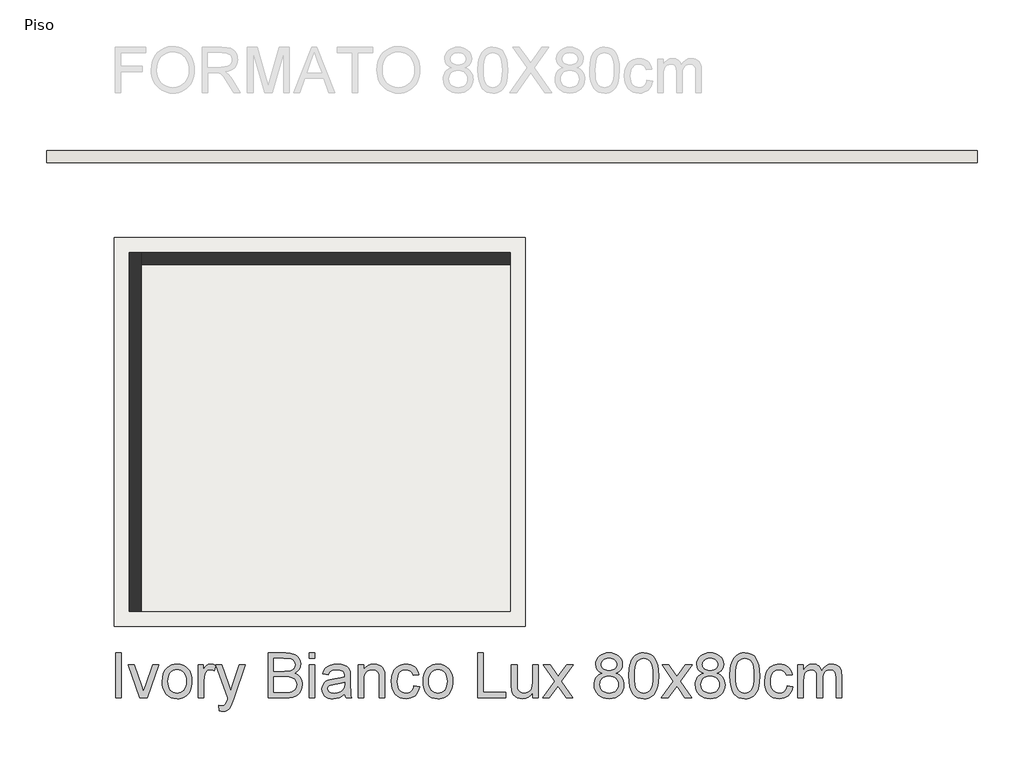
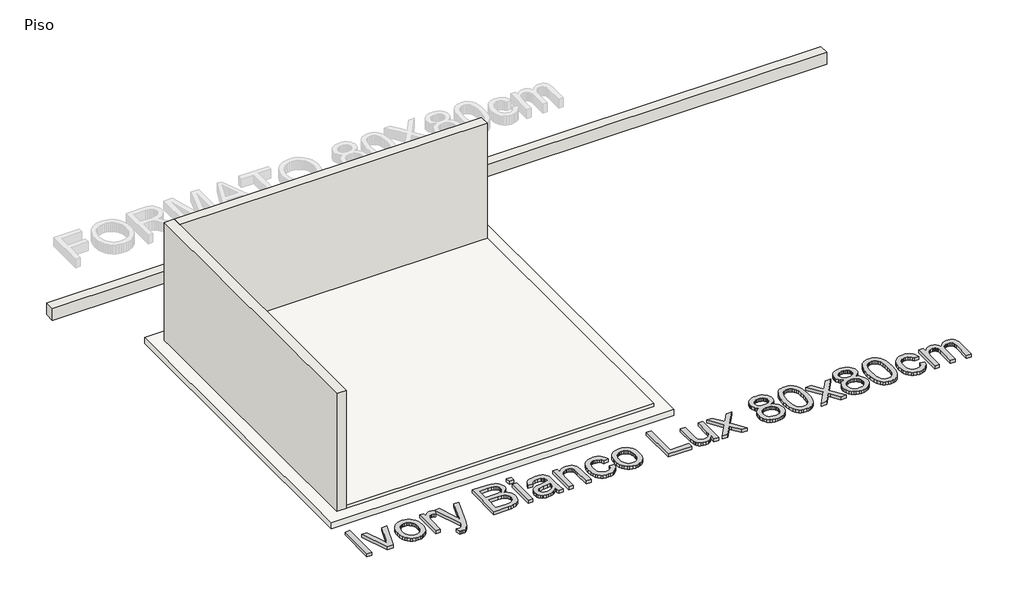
# One storey, part 1 of 2: 3 walls, 2 slabs, 1 proxy.
"""IFC4 building model written with IfcOpenShell, lengths in millimetres."""

from ifc_helpers import new_model, si_unit, frame, origin, origin_with_axes, place, context, project, spatial, polyline, outline, extrude, faceted_brep, element, save

model = new_model("IFC4")

# Units and contexts
model_context = context("Model", 3, world=origin())
ifc_project = project(units=[si_unit("LENGTHUNIT", "METRE", prefix="MILLI")], contexts=[model_context])

# Site, building, storey
site = spatial("IfcSite", under=ifc_project)
building = spatial("IfcBuilding", under=site)
storey = spatial("IfcBuildingStorey", under=building, Name="Piso", Elevation=0.0)

# Proxy
placement = place(None, origin())
element("IfcBuildingElementProxy", 1, Name="600mm Arial", ObjectType="600mm Arial", at=placement, inside=storey, context=model_context, shape_type="SweptSolid", body=[
    extrude(outline(polyline([(92605.8267172, -5369.1849345), (92605.8267172, -4766.4470736), (92681.1689498, -4766.4470736), (92681.1689498, -5369.1849345), (92605.8267172, -5369.1849345)])), origin_with_axes(), (0.0, 0.0, 1.0), 50.0),
    extrude(outline(polyline([(92931.0344009, -5369.1849345), (92775.3467405, -4926.5493179), (92855.1035571, -4926.5493179), (92949.4285007, -5191.71866), (92977.8289907, -5280.8932556), (93005.6408695, -5196.7218551), (93100.5544243, -4926.5493179), (93180.3112408, -4926.5493179), (93026.5365668, -5369.1849345), (92931.0344009, -5369.1849345)])), origin_with_axes(), (0.0, 0.0, 1.0), 50.0),
    extrude(outline(polyline([(93227.4001362, -5147.8671262), (93231.4744293, -5090.5419143), (93243.6973086, -5041.1445594), (93264.0687741, -4999.6750615), (93292.5888258, -4966.1334206), (93321.3020155, -4944.6950973), (93352.9950494, -4929.3820092), (93387.6679274, -4920.1941564), (93425.3206496, -4917.1315388), (93466.8867165, -4920.8609425), (93504.4704609, -4932.0491537), (93538.0718826, -4950.6961723), (93567.6909817, -4976.8019984), (93591.8654274, -5009.4837152), (93609.1328885, -5047.8584058), (93619.4933652, -5091.9260703), (93622.9468574, -5141.6867087), (93621.4201471, -5182.0157724), (93616.8400163, -5217.8014935), (93609.2064649, -5249.0438719), (93598.5194929, -5275.7429077), (93584.9124576, -5298.8045103), (93568.5187162, -5319.134589), (93549.3382687, -5336.733144), (93527.3711151, -5351.6001751), (93503.472581, -5363.4137857), (93478.497992, -5371.8520789), (93452.4473482, -5376.9150549), (93425.3206496, -5378.6027136), (93383.1475774, -5374.8871054), (93345.2143452, -5363.7402809), (93311.5209529, -5345.1622402), (93282.0674007, -5319.1529831), (93258.1504725, -5286.1539682), (93241.0669523, -5246.6066537), (93230.8168402, -5200.5110397), (93227.4001362, -5147.8671262)]), holes=[polyline([(93302.7423688, -5147.7199734), (93304.9220696, -5184.2644511), (93311.4611721, -5215.9069012), (93322.3596762, -5242.6473237), (93337.617582, -5264.4857186), (93356.1772286, -5281.4496771), (93376.9809554, -5293.5667904), (93400.0287624, -5300.8370583), (93425.3206496, -5303.2604809), (93450.4837781, -5300.8232627), (93473.4396146, -5293.5116081), (93494.1881591, -5281.325517), (93512.7294117, -5264.2649895), (93527.9873174, -5242.2104638), (93538.8858215, -5215.0423785), (93545.424924, -5182.7607334), (93547.6046248, -5145.3655286), (93545.4111284, -5109.9798792), (93538.8306392, -5079.1651636), (93527.8631572, -5052.9213817), (93512.5086825, -5031.2485337), (93493.898452, -5014.2845752), (93473.1637031, -5002.167462), (93450.3044356, -4994.8971941), (93425.3206496, -4992.4737714), (93400.0287624, -4994.887997), (93376.9809554, -5002.1306738), (93356.1772286, -5014.2018018), (93337.617582, -5031.1013809), (93322.3596762, -5052.8753965), (93311.4611721, -5079.5698338), (93304.9220696, -5111.1846927), (93302.7423688, -5147.7199734)])]), origin_with_axes(), (0.0, 0.0, 1.0), 50.0),
    extrude(outline(polyline([(93707.7068691, -5369.1849345), (93707.7068691, -4926.5493179), (93773.6313226, -4926.5493179), (93773.6313226, -4992.032313), (93797.9851107, -4954.0668911), (93820.4259124, -4931.6996658), (93842.9402905, -4920.7735706), (93867.5148078, -4917.1315388), (93905.0387713, -4922.9440743), (93943.151346, -4940.3816809), (93917.9882176, -5007.9248152), (93891.5007139, -4996.3365324), (93865.0132103, -4992.4737714), (93842.5172262, -4996.1893796), (93822.4124752, -5007.336204), (93806.1704851, -5025.0681162), (93795.262784, -5048.5389875), (93786.1025223, -5090.6246877), (93783.0491017, -5136.5363607), (93783.0491017, -5369.1849345), (93707.7068691, -5369.1849345)])), origin_with_axes(), (0.0, 0.0, 1.0), 50.0),
    extrude(outline(polyline([(93990.2402414, -5538.7049579), (93980.8224623, -5466.1586284), (94019.0821898, -5472.7805043), (94039.205335, -5470.701971), (94054.8403198, -5464.4663712), (94067.0172138, -5454.5151633), (94076.7660867, -5441.2898055), (94097.3674784, -5385.8132007), (94103.2535903, -5367.5662537), (93943.151346, -4926.5493179), (94022.613857, -4926.5493179), (94107.5210215, -5172.2944907), (94137.0987339, -5270.5925598), (94166.6764463, -5183.7724089), (94253.9380556, -4926.5493179), (94332.8119553, -4926.5493179), (94178.7429757, -5379.7799359), (94138.7174147, -5478.078005), (94118.2263875, -5509.4583392), (94095.0130336, -5531.2001652), (94068.0472834, -5543.892094), (94036.2990672, -5548.1227369), (94014.4836649, -5545.7682922), (93990.2402414, -5538.7049579)])), origin_with_axes(), (0.0, 0.0, 1.0), 50.0),
    extrude(outline(polyline([(94640.0669977, -5369.1849345), (94640.0669977, -4766.4470736), (94870.0668211, -4766.4470736), (94933.3241301, -4770.8800516), (94982.712288, -4784.1789857), (95002.7894479, -4794.2359598), (95020.5673453, -4806.6749697), (95036.0459802, -4821.4960156), (95049.2253527, -4838.6990974), (95067.2699646, -4876.3702137), (95073.2848352, -4915.8071636), (95068.2264578, -4952.0987224), (95053.0513255, -4986.2197775), (95027.6490737, -5016.0734014), (94991.9093379, -5039.5626668), (95014.6490437, -5049.2563574), (95034.6020434, -5061.8563157), (95051.768337, -5077.3625418), (95066.1479245, -5095.7750357), (95077.5108796, -5116.5327772), (95085.6272761, -5139.0747465), (95090.4971141, -5163.4009434), (95092.1203934, -5189.511368), (95087.6874153, -5231.541886), (95074.3884812, -5270.5189834), (95054.5412476, -5303.6651511), (95030.463371, -5328.2028802), (95000.9776291, -5345.9715806), (94964.9067994, -5358.8106622), (94921.0736597, -5366.5913664), (94868.3009875, -5369.1849345), (94640.0669977, -5369.1849345)]), holes=[polyline([(94715.4092303, -5011.3093296), (94852.9970965, -5011.3093296), (94901.1160615, -5009.6906488), (94933.3425242, -5004.8346065), (94961.4671028, -4993.6693879), (94981.6822184, -4976.9491512), (94993.8775065, -4954.9314138), (94997.9426026, -4927.8736931), (94994.153418, -4901.6069186), (94982.7858644, -4878.7246585), (94964.3549764, -4860.8639876), (94939.375789, -4849.6619809), (94901.0424851, -4843.7574749), (94842.5492478, -4841.7893062), (94715.4092303, -4841.7893062), (94715.4092303, -5011.3093296)]), polyline([(94715.4092303, -5293.8427019), (94869.9196683, -5293.8427019), (94925.8377315, -5290.8996459), (94951.7918063, -5284.3697405), (94973.1473561, -5274.4921089), (94990.5113863, -5260.3470462), (95004.4909021, -5241.0148474), (95013.7063461, -5217.3600351), (95016.7781607, -5190.247132), (95013.1729172, -5158.7564332), (95002.3571865, -5131.6803184), (94983.4664461, -5110.5087096), (94955.6361732, -5096.7315288), (94916.2176174, -5089.1715538), (94862.5620284, -5086.6515622), (94715.4092303, -5086.6515622), (94715.4092303, -5293.8427019)])]), origin_with_axes(), (0.0, 0.0, 1.0), 50.0),
    extrude(outline(polyline([(95186.2981841, -4841.7893062), (95186.2981841, -4766.4470736), (95261.6404167, -4766.4470736), (95261.6404167, -4841.7893062), (95186.2981841, -4841.7893062)])), origin_with_axes(), (0.0, 0.0, 1.0), 50.0),
    extrude(outline(polyline([(95186.2981841, -5369.1849345), (95186.2981841, -4926.5493179), (95261.6404167, -4926.5493179), (95261.6404167, -5369.1849345), (95186.2981841, -5369.1849345)])), origin_with_axes(), (0.0, 0.0, 1.0), 50.0),
    extrude(outline(polyline([(95657.187138, -5312.67826), (95621.1898847, -5343.5435594), (95584.1257737, -5363.7402809), (95545.1486763, -5374.8871054), (95503.412464, -5378.6027136), (95469.8662245, -5376.3678304), (95440.4494605, -5369.6631811), (95415.1621719, -5358.4887655), (95394.0043586, -5342.8445836), (95377.2979175, -5323.7239169), (95365.3647453, -5302.1200468), (95358.2048419, -5278.0329731), (95355.8182075, -5251.462696), (95359.4234511, -5220.2295146), (95370.2391817, -5191.8658128), (95386.9226302, -5167.5856011), (95408.1310272, -5148.6028902), (95433.0550324, -5134.2554924), (95460.8853053, -5123.8812201), (95526.0739949, -5112.5504546), (95603.1084847, -5100.631078), (95656.7456796, -5086.6515622), (95657.187138, -5069.8761432), (95652.0000018, -5036.2517288), (95645.5160817, -5023.7989233), (95636.4385934, -5014.2523855), (95620.7484263, -5004.7242419), (95601.6369567, -4997.9184249), (95553.1501097, -4992.4737714), (95508.2685063, -4996.0974091), (95476.9249603, -5006.968322), (95455.5510164, -5027.0730731), (95440.5782192, -5058.3982249), (95365.2359866, -5048.9804459), (95378.3141915, -5007.7776624), (95397.8303314, -4975.4040468), (95425.605422, -4950.6455886), (95463.4604793, -4932.288277), (95509.7584284, -4920.9207234), (95562.8621944, -4917.1315388), (95613.7954566, -4920.479265), (95654.1705056, -4930.5224434), (95684.6127407, -4945.6239993), (95705.7475613, -4964.1468578), (95719.7638653, -4987.047512), (95728.8505506, -5015.2824551), (95732.5293706, -5081.2069087), (95732.5293706, -5174.943241), (95736.3553433, -5305.8356549), (95742.020726, -5338.1908764), (95751.3649287, -5369.1849345), (95676.0226961, -5369.1849345), (95663.9561667, -5342.9917364), (95657.187138, -5312.67826)]), holes=[polyline([(95657.187138, -5161.9937948), (95606.5665754, -5174.5385708), (95535.6389267, -5185.0967841), (95470.8181192, -5197.3104663), (95453.9507297, -5205.6613876), (95441.461136, -5217.1760941), (95433.7356141, -5230.9716689), (95431.1604401, -5246.1651953), (95436.7706405, -5268.5692088), (95453.6012418, -5286.9265204), (95481.284362, -5299.1769908), (95519.452119, -5303.2604809), (95559.9191384, -5298.7539265), (95595.6772684, -5285.2342632), (95624.6663696, -5265.3134531), (95644.8263029, -5241.6034585), (95653.7658354, -5217.1760941), (95656.7456796, -5183.3309505), (95657.187138, -5161.9937948)])]), origin_with_axes(), (0.0, 0.0, 1.0), 50.0),
    extrude(outline(polyline([(95836.1249404, -5369.1849345), (95836.1249404, -4926.5493179), (95911.467173, -4926.5493179), (95911.467173, -4988.3534931), (95937.641977, -4957.1938881), (95969.0774935, -4934.9370274), (96005.7737225, -4921.5829109), (96047.730664, -4917.1315388), (96084.8683514, -4920.7183883), (96118.8790419, -4931.4789366), (96147.2427437, -4948.0704146), (96167.4394653, -4969.1500529), (96181.1430696, -4994.6626693), (96190.0274198, -5024.5530814), (96194.0005453, -5097.3937164), (96194.0005453, -5369.1849345), (96118.6583127, -5369.1849345), (96118.6583127, -5107.5472595), (96116.4878089, -5068.5885562), (96109.9762976, -5040.887042), (96097.9649505, -5021.0398083), (96079.2949392, -5005.6439468), (96055.3642154, -4995.7663153), (96027.5707307, -4992.4737714), (96004.6930691, -4994.3223784), (95983.4432854, -4999.8681995), (95963.8213795, -5009.1112346), (95945.8273514, -5022.0514838), (95930.7947733, -5040.160475), (95920.0572176, -5064.9097363), (95913.6146842, -5096.2992675), (95911.467173, -5134.3290688), (95911.467173, -5369.1849345), (95836.1249404, -5369.1849345)])), origin_with_axes(), (0.0, 0.0, 1.0), 50.0),
    extrude(outline(polyline([(96580.1294875, -5209.0826902), (96655.4717201, -5218.5004693), (96647.2771486, -5254.0516656), (96634.4656581, -5285.5101747), (96617.0372486, -5312.8759966), (96594.9919201, -5336.1491313), (96569.2585745, -5354.7225735), (96540.766114, -5367.989318), (96509.5145385, -5375.9493647), (96475.503848, -5378.6027136), (96433.2480024, -5374.900901), (96395.3607554, -5363.7954632), (96361.8421071, -5345.2864004), (96332.6920575, -5319.3737123), (96309.097026, -5286.5448428), (96292.2434321, -5247.2872354), (96282.1312758, -5201.6008901), (96278.760557, -5149.485807), (96284.5179102, -5082.4393133), (96291.7146018, -5052.2683912), (96301.7899699, -5024.3323522), (96314.8129925, -4999.1922164), (96330.8526475, -4977.4090037), (96349.9089349, -4958.9827143), (96371.9818546, -4943.9133481), (96396.0735267, -4932.1963065), (96421.1860714, -4923.8269911), (96447.3194887, -4918.8054019), (96474.4737784, -4917.1315388), (96507.9004562, -4919.4308013), (96538.1357577, -4926.3285887), (96565.1796829, -4937.824901), (96589.0322317, -4953.9197383), (96609.2887341, -4974.2452186), (96625.5445198, -4998.4334597), (96637.7995887, -5026.4844619), (96646.053941, -5058.3982249), (96570.7117084, -5067.816004), (96557.0448923, -5034.9457478), (96535.7629188, -5011.382906), (96508.0430105, -4997.2010551), (96475.0623896, -4992.4737714), (96449.4624013, -4994.800625), (96426.3732076, -5001.7811859), (96405.7948085, -5013.415454), (96387.727204, -5029.7034293), (96373.0165227, -5051.0221909), (96362.5088932, -5077.7488179), (96356.2043155, -5109.8833102), (96354.1027896, -5147.4256678), (96356.1583303, -5185.533644), (96362.3249522, -5218.0406168), (96372.6026554, -5244.9465862), (96386.99144, -5266.2515522), (96404.7003595, -5282.4429585), (96424.9384678, -5294.0082488), (96447.7057648, -5300.9474229), (96473.0022505, -5303.2604809), (96512.016136, -5297.4847336), (96528.888124, -5290.2650495), (96544.0034755, -5280.1574916), (96556.9391262, -5267.0516956), (96567.2720117, -5250.8372966), (96575.0021321, -5231.5142948), (96580.1294875, -5209.0826902)])), origin_with_axes(), (0.0, 0.0, 1.0), 50.0),
    extrude(outline(polyline([(96702.5606154, -5147.8671262), (96706.6349085, -5090.5419143), (96718.8577878, -5041.1445594), (96739.2292533, -4999.6750615), (96767.749305, -4966.1334206), (96796.4624947, -4944.6950973), (96828.1555286, -4929.3820092), (96862.8284066, -4920.1941564), (96900.4811289, -4917.1315388), (96942.0471958, -4920.8609425), (96979.6309401, -4932.0491537), (97013.2323618, -4950.6961723), (97042.851461, -4976.8019984), (97067.0259066, -5009.4837152), (97084.2933677, -5047.8584058), (97094.6538444, -5091.9260703), (97098.1073367, -5141.6867087), (97096.5806264, -5182.0157724), (97092.0004955, -5217.8014935), (97084.3669441, -5249.0438719), (97073.6799722, -5275.7429077), (97060.0729369, -5298.8045103), (97043.6791955, -5319.134589), (97024.498748, -5336.733144), (97002.5315943, -5351.6001751), (96978.6330602, -5363.4137857), (96953.6584713, -5371.8520789), (96927.6078275, -5376.9150549), (96900.4811289, -5378.6027136), (96858.3080566, -5374.8871054), (96820.3748244, -5363.7402809), (96786.6814322, -5345.1622402), (96757.2278799, -5319.1529831), (96733.3109517, -5286.1539682), (96716.2274316, -5246.6066537), (96705.9773195, -5200.5110397), (96702.5606154, -5147.8671262)]), holes=[polyline([(96777.9028481, -5147.7199734), (96780.0825489, -5184.2644511), (96786.6216513, -5215.9069012), (96797.5201555, -5242.6473237), (96812.7780612, -5264.4857186), (96831.3377079, -5281.4496771), (96852.1414347, -5293.5667904), (96875.1892417, -5300.8370583), (96900.4811289, -5303.2604809), (96925.6442573, -5300.8232627), (96948.6000938, -5293.5116081), (96969.3486383, -5281.325517), (96987.8898909, -5264.2649895), (97003.1477967, -5242.2104638), (97014.0463008, -5215.0423785), (97020.5854032, -5182.7607334), (97022.765104, -5145.3655286), (97020.5716077, -5109.9798792), (97013.9911185, -5079.1651636), (97003.0236365, -5052.9213817), (96987.6691617, -5031.2485337), (96969.0589313, -5014.2845752), (96948.3241823, -5002.167462), (96925.4649149, -4994.8971941), (96900.4811289, -4992.4737714), (96875.1892417, -4994.887997), (96852.1414347, -5002.1306738), (96831.3377079, -5014.2018018), (96812.7780612, -5031.1013809), (96797.5201555, -5052.8753965), (96786.6216513, -5079.5698338), (96780.0825489, -5111.1846927), (96777.9028481, -5147.7199734)])]), origin_with_axes(), (0.0, 0.0, 1.0), 50.0),
    extrude(outline(polyline([(97427.7296043, -5369.1849345), (97427.7296043, -4766.4470736), (97503.071837, -4766.4470736), (97503.071837, -5293.8427019), (97804.4407674, -5293.8427019), (97804.4407674, -5369.1849345), (97427.7296043, -5369.1849345)])), origin_with_axes(), (0.0, 0.0, 1.0), 50.0),
    extrude(outline(polyline([(98162.3163723, -5369.1849345), (98162.3163723, -5293.1069379), (98135.0563165, -5330.5113397), (98103.3081003, -5357.2287696), (98067.0717238, -5373.2592276), (98026.3471869, -5378.6027136), (97989.6509579, -5374.8503172), (97955.4931146, -5363.5931281), (97926.8351072, -5346.6705564), (97906.6383857, -5325.9220118), (97893.0451459, -5300.7220952), (97884.197584, -5270.445407), (97879.783, -5200.4006751), (97879.783, -4926.5493179), (97955.1252326, -4926.5493179), (97955.1252326, -5164.9368508), (97956.2656668, -5212.6143573), (97959.6869694, -5241.7506113), (97970.6682469, -5267.3735923), (97989.485411, -5286.852944), (98014.8876627, -5299.1585967), (98045.6242034, -5303.2604809), (98078.1265777, -5299.0666262), (98108.5320246, -5286.485062), (98133.6031826, -5266.6746165), (98150.1026901, -5240.7941182), (98159.2629517, -5205.3486879), (98162.3163723, -5156.8434469), (98162.3163723, -4926.5493179), (98237.6586049, -4926.5493179), (98237.6586049, -5369.1849345), (98162.3163723, -5369.1849345)])), origin_with_axes(), (0.0, 0.0, 1.0), 50.0),
    extrude(outline(polyline([(98294.1652794, -5369.1849345), (98455.1504405, -5146.6899038), (98303.5830585, -4926.5493179), (98394.2291821, -4926.5493179), (98467.3641227, -5032.4993325), (98501.5035719, -5082.5312838), (98531.0812843, -5041.622806), (98614.369768, -4926.5493179), (98705.0158916, -4926.5493179), (98545.7965641, -5146.6899038), (98699.1297797, -5369.1849345), (98608.4836561, -5369.1849345), (98516.2188517, -5235.423041), (98499.2962799, -5210.9956765), (98384.811403, -5369.1849345), (98294.1652794, -5369.1849345)])), origin_with_axes(), (0.0, 0.0, 1.0), 50.0),
    extrude(outline(polyline([(99091.4391393, -5037.208222), (99051.1008786, -5017.3425943), (99035.4429011, -5004.7610301), (99022.792359, -4990.4136322), (99006.0721223, -4956.9731589), (99000.4987101, -4917.5729972), (99003.5337366, -4886.8456535), (99012.638816, -4858.6750898), (99027.8139483, -4833.0613059), (99049.0591335, -4810.0043018), (99075.3534991, -4790.9480145), (99105.6761725, -4777.3363806), (99140.0271538, -4769.1694003), (99178.406443, -4766.4470736), (99216.9696731, -4769.2337797), (99251.5781718, -4777.593898), (99282.2319391, -4791.5274286), (99308.9309749, -4811.0343714), (99330.5624362, -4834.5420309), (99346.01348, -4860.4777115), (99355.2841063, -4888.8414134), (99358.374315, -4919.6331364), (99352.8744792, -4957.7641052), (99336.3749717, -4990.6343614), (99323.9543559, -5004.8851902), (99308.6918516, -5017.3977766), (99269.6411778, -5037.208222), (99294.4042346, -5047.7434427), (99316.0127033, -5061.1021576), (99334.4665839, -5077.2843669), (99349.7658763, -5096.2900705), (99361.772625, -5117.696204), (99370.348874, -5141.0797034), (99375.4946234, -5166.4405684), (99377.2098732, -5193.7787992), (99373.8069647, -5231.357945), (99363.5982394, -5265.8100938), (99346.5836971, -5297.1352457), (99322.7633379, -5325.3334006), (99293.3879606, -5348.638725), (99259.7083639, -5365.2853853), (99221.7245479, -5375.2733815), (99179.4365126, -5378.6027136), (99137.1484772, -5375.2595859), (99099.1646612, -5365.230203), (99065.4850646, -5348.5145649), (99036.1096873, -5325.1126715), (99012.2893281, -5296.7167799), (98995.2747858, -5265.0191475), (98985.0660604, -5230.0197742), (98981.663152, -5191.71866), (98983.4473796, -5163.134229), (98988.8000627, -5136.9778191), (98997.7212011, -5113.2494304), (99010.2107948, -5091.9490629), (99025.9929324, -5073.4629927), (99044.7917023, -5058.1774958), (99066.6071047, -5046.0925722), (99091.4391393, -5037.208222)]), holes=[polyline([(99075.8409427, -4919.7802892), (99077.5102073, -4937.0523488), (99082.5180009, -4952.6689395), (99090.8643237, -4966.6300613), (99102.5491756, -4978.935714), (99117.4254038, -4988.9788925), (99135.3458555, -4996.1525914), (99156.3105307, -5000.4568107), (99180.3194294, -5001.8915505), (99203.7351184, -5000.4660078), (99224.2445396, -4996.1893796), (99241.8476931, -4989.0616659), (99256.5445788, -4979.0828668), (99268.1328616, -4967.0347314), (99276.4102065, -4953.6990091), (99281.3766134, -4939.0756998), (99283.0320824, -4923.1648035), (99281.3214311, -4906.6331064), (99276.1894773, -4891.4717696), (99267.6362209, -4877.6807933), (99255.661662, -4865.2601775), (99240.6336825, -4854.9916713), (99222.9201644, -4847.657024), (99202.5211078, -4843.2562356), (99179.4365126, -4841.7893062), (99156.1725749, -4843.224046), (99135.6769492, -4847.5282653), (99117.9496356, -4854.7019642), (99102.990634, -4864.7451427), (99091.1126441, -4876.793278), (99082.6283655, -4889.9818476), (99077.5377984, -4904.3108513), (99075.8409427, -4919.7802892)]), polyline([(99057.0053846, -5189.0699096), (99060.1507756, -5217.893464), (99069.5869488, -5245.7973133), (99087.0061613, -5270.1327073), (99114.1006702, -5288.2508955), (99146.5478622, -5299.5080846), (99180.0251238, -5303.2604809), (99207.2667855, -5301.2877137), (99231.3078739, -5295.3694121), (99252.1483889, -5285.5055761), (99269.7883306, -5271.6962058), (99283.8230287, -5254.8426118), (99293.8478131, -5235.8461053), (99299.8626837, -5214.7066862), (99301.8676406, -5191.4243544), (99299.7983043, -5167.7695421), (99293.5902957, -5146.2484454), (99283.2436146, -5126.8610643), (99268.758261, -5109.6073987), (99250.6400727, -5095.4439419), (99229.3948875, -5085.327187), (99205.0227053, -5079.2571341), (99177.5235262, -5077.2337831), (99150.6819361, -5079.2295429), (99126.958146, -5085.2168224), (99106.3521557, -5095.1956215), (99088.8639654, -5109.1659403), (99074.9258363, -5126.1344973), (99064.9700298, -5145.1080112), (99058.9965459, -5166.086482), (99057.0053846, -5189.0699096)])]), origin_with_axes(), (0.0, 0.0, 1.0), 50.0),
    extrude(outline(polyline([(99443.1343267, -5072.6720464), (99448.6709507, -4976.1949931), (99455.5917308, -4935.2819167), (99465.2808228, -4899.2524738), (99477.6968402, -4867.8123588), (99492.7983961, -4840.6672661), (99510.5854905, -4817.8171957), (99531.0581236, -4799.2621475), (99554.285273, -4784.9055527), (99580.3359168, -4774.6508421), (99609.2100549, -4768.4980157), (99640.9076873, -4766.4470736), (99687.3343951, -4771.3031159), (99728.9050606, -4785.8712429), (99763.6699091, -4809.5812375), (99789.6791662, -4841.8628826), (99809.3240647, -4882.4402667), (99824.9958377, -4931.0374782), (99835.2597454, -4992.7496829), (99838.6810479, -5072.6720464), (99833.1996062, -5168.5972766), (99826.347804, -5209.3723972), (99816.755281, -5245.3558549), (99804.4358327, -5276.8097655), (99789.4032547, -5303.9962449), (99771.6575469, -5326.9152932), (99751.1987095, -5345.5669104), (99727.9439689, -5360.0200743), (99701.8105516, -5370.3437628), (99672.7984578, -5376.5379759), (99640.9076873, -5378.6027136), (99599.4105983, -5375.0158641), (99562.6223988, -5364.2553157), (99530.5430888, -5346.3210685), (99503.1726683, -5321.2131223), (99476.9058939, -5275.8256811), (99458.1439121, -5219.2730214), (99446.8867231, -5151.5551432), (99443.1343267, -5072.6720464)]), holes=[polyline([(99518.4765593, -5072.5248936), (99520.6838513, -5138.0216843), (99527.3057272, -5191.0380783), (99538.3421871, -5231.5740757), (99553.7932309, -5259.6296763), (99572.4816362, -5278.7181533), (99593.2301807, -5292.3527798), (99616.0388644, -5300.5335556), (99640.9076873, -5303.2604809), (99665.7765102, -5300.5243586), (99688.5851939, -5292.3159916), (99709.3337384, -5278.6353799), (99728.0221438, -5259.4825235), (99743.4731876, -5231.3809376), (99754.5096474, -5190.8541373), (99761.1315233, -5137.9021226), (99763.3388153, -5072.5248936), (99761.2050997, -5008.7617467), (99754.803953, -4956.6788533), (99744.1353752, -4916.2762132), (99729.1993662, -4887.5538264), (99710.8236605, -4867.5318488), (99689.8359927, -4853.2304362), (99666.2363627, -4844.6495887), (99640.0247705, -4841.7893062), (99615.2847064, -4844.3092979), (99592.8622988, -4851.8692729), (99572.7575477, -4864.4692312), (99554.9704533, -4882.1091729), (99539.0043747, -4913.3791425), (99527.6000328, -4955.5384191), (99520.7574277, -5008.5870028), (99518.4765593, -5072.5248936)])]), origin_with_axes(), (0.0, 0.0, 1.0), 50.0),
    extrude(outline(polyline([(99876.3521642, -5369.1849345), (100037.3373253, -5146.6899038), (99885.7699433, -4926.5493179), (99976.4160669, -4926.5493179), (100049.5510076, -5032.4993325), (100083.6904567, -5082.5312838), (100113.2681691, -5041.622806), (100196.5566528, -4926.5493179), (100287.2027765, -4926.5493179), (100127.9834489, -5146.6899038), (100281.3166645, -5369.1849345), (100190.6705409, -5369.1849345), (100098.4057365, -5235.423041), (100081.4831647, -5210.9956765), (99966.9982878, -5369.1849345), (99876.3521642, -5369.1849345)])), origin_with_axes(), (0.0, 0.0, 1.0), 50.0),
    extrude(outline(polyline([(100438.1815473, -5037.208222), (100397.8432865, -5017.3425943), (100382.1853091, -5004.7610301), (100369.534767, -4990.4136322), (100352.8145303, -4956.9731589), (100347.2411181, -4917.5729972), (100350.2761445, -4886.8456535), (100359.3812239, -4858.6750898), (100374.5563562, -4833.0613059), (100395.8015414, -4810.0043018), (100422.095907, -4790.9480145), (100452.4185805, -4777.3363806), (100486.7695618, -4769.1694003), (100525.1488509, -4766.4470736), (100563.7120811, -4769.2337797), (100598.3205798, -4777.593898), (100628.974347, -4791.5274286), (100655.6733828, -4811.0343714), (100677.3048441, -4834.5420309), (100692.7558879, -4860.4777115), (100702.0265142, -4888.8414134), (100705.116723, -4919.6331364), (100699.6168871, -4957.7641052), (100683.1173797, -4990.6343614), (100670.6967638, -5004.8851902), (100655.4342595, -5017.3977766), (100616.3835857, -5037.208222), (100641.1466425, -5047.7434427), (100662.7551112, -5061.1021576), (100681.2089918, -5077.2843669), (100696.5082843, -5096.2900705), (100708.5150329, -5117.696204), (100717.0912819, -5141.0797034), (100722.2370313, -5166.4405684), (100723.9522811, -5193.7787992), (100720.5493727, -5231.357945), (100710.3406473, -5265.8100938), (100693.326105, -5297.1352457), (100669.5057458, -5325.3334006), (100640.1303685, -5348.638725), (100606.4507719, -5365.2853853), (100568.4669559, -5375.2733815), (100526.1789205, -5378.6027136), (100483.8908852, -5375.2595859), (100445.9070692, -5365.230203), (100412.2274725, -5348.5145649), (100382.8520952, -5325.1126715), (100359.031736, -5296.7167799), (100342.0171937, -5265.0191475), (100331.8084684, -5230.0197742), (100328.4055599, -5191.71866), (100330.1897876, -5163.134229), (100335.5424706, -5136.9778191), (100344.463609, -5113.2494304), (100356.9532027, -5091.9490629), (100372.7353403, -5073.4629927), (100391.5341103, -5058.1774958), (100413.3495126, -5046.0925722), (100438.1815473, -5037.208222)]), holes=[polyline([(100422.5833507, -4919.7802892), (100424.2526152, -4937.0523488), (100429.2604089, -4952.6689395), (100437.6067317, -4966.6300613), (100449.2915835, -4978.935714), (100464.1678117, -4988.9788925), (100482.0882634, -4996.1525914), (100503.0529386, -5000.4568107), (100527.0618373, -5001.8915505), (100550.4775263, -5000.4660078), (100570.9869475, -4996.1893796), (100588.590101, -4989.0616659), (100603.2869867, -4979.0828668), (100614.8752696, -4967.0347314), (100623.1526144, -4953.6990091), (100628.1190214, -4939.0756998), (100629.7744904, -4923.1648035), (100628.0638391, -4906.6331064), (100622.9318852, -4891.4717696), (100614.3786289, -4877.6807933), (100602.4040699, -4865.2601775), (100587.3760904, -4854.9916713), (100569.6625723, -4847.657024), (100549.2635157, -4843.2562356), (100526.1789205, -4841.7893062), (100502.9149828, -4843.224046), (100482.4193572, -4847.5282653), (100464.6920435, -4854.7019642), (100449.7330419, -4864.7451427), (100437.855052, -4876.793278), (100429.3707735, -4889.9818476), (100424.2802064, -4904.3108513), (100422.5833507, -4919.7802892)]), polyline([(100403.7477925, -5189.0699096), (100406.8931836, -5217.893464), (100416.3293568, -5245.7973133), (100433.7485692, -5270.1327073), (100460.8430782, -5288.2508955), (100493.2902701, -5299.5080846), (100526.7675317, -5303.2604809), (100554.0091935, -5301.2877137), (100578.0502818, -5295.3694121), (100598.8907969, -5285.5055761), (100616.5307385, -5271.6962058), (100630.5654366, -5254.8426118), (100640.590221, -5235.8461053), (100646.6050916, -5214.7066862), (100648.6100485, -5191.4243544), (100646.5407123, -5167.7695421), (100640.3327036, -5146.2484454), (100629.9860225, -5126.8610643), (100615.5006689, -5109.6073987), (100597.3824807, -5095.4439419), (100576.1372955, -5085.327187), (100551.7651133, -5079.2571341), (100524.2659341, -5077.2337831), (100497.4243441, -5079.2295429), (100473.7005539, -5085.2168224), (100453.0945637, -5095.1956215), (100435.6063733, -5109.1659403), (100421.6682442, -5126.1344973), (100411.7124377, -5145.1080112), (100405.7389538, -5166.086482), (100403.7477925, -5189.0699096)])]), origin_with_axes(), (0.0, 0.0, 1.0), 50.0),
    extrude(outline(polyline([(100789.8767347, -5072.6720464), (100795.4133587, -4976.1949931), (100802.3341387, -4935.2819167), (100812.0232308, -4899.2524738), (100824.4392481, -4867.8123588), (100839.540804, -4840.6672661), (100857.3278985, -4817.8171957), (100877.8005315, -4799.2621475), (100901.027681, -4784.9055527), (100927.0783248, -4774.6508421), (100955.9524629, -4768.4980157), (100987.6500953, -4766.4470736), (101034.0768031, -4771.3031159), (101075.6474685, -4785.8712429), (101110.4123171, -4809.5812375), (101136.4215741, -4841.8628826), (101156.0664727, -4882.4402667), (101171.7382457, -4931.0374782), (101182.0021533, -4992.7496829), (101185.4234559, -5072.6720464), (101179.9420141, -5168.5972766), (101173.090212, -5209.3723972), (101163.497689, -5245.3558549), (101151.1782406, -5276.8097655), (101136.1456626, -5303.9962449), (101118.3999549, -5326.9152932), (101097.9411174, -5345.5669104), (101074.6863768, -5360.0200743), (101048.5529596, -5370.3437628), (101019.5408657, -5376.5379759), (100987.6500953, -5378.6027136), (100946.1530062, -5375.0158641), (100909.3648067, -5364.2553157), (100877.2854967, -5346.3210685), (100849.9150763, -5321.2131223), (100823.6483018, -5275.8256811), (100804.8863201, -5219.2730214), (100793.629131, -5151.5551432), (100789.8767347, -5072.6720464)]), holes=[polyline([(100865.2189673, -5072.5248936), (100867.4262592, -5138.0216843), (100874.0481352, -5191.0380783), (100885.084595, -5231.5740757), (100900.5356388, -5259.6296763), (100919.2240442, -5278.7181533), (100939.9725887, -5292.3527798), (100962.7812724, -5300.5335556), (100987.6500953, -5303.2604809), (101012.5189181, -5300.5243586), (101035.3276018, -5292.3159916), (101056.0761464, -5278.6353799), (101074.7645517, -5259.4825235), (101090.2155955, -5231.3809376), (101101.2520554, -5190.8541373), (101107.8739313, -5137.9021226), (101110.0812233, -5072.5248936), (101107.9475077, -5008.7617467), (101101.546361, -4956.6788533), (101090.8777831, -4916.2762132), (101075.9417741, -4887.5538264), (101057.5660685, -4867.5318488), (101036.5784006, -4853.2304362), (101012.9787706, -4844.6495887), (100986.7671785, -4841.7893062), (100962.0271143, -4844.3092979), (100939.6047067, -4851.8692729), (100919.4999557, -4864.4692312), (100901.7128612, -4882.1091729), (100885.7467826, -4913.3791425), (100874.3424408, -4955.5384191), (100867.4998356, -5008.5870028), (100865.2189673, -5072.5248936)])]), origin_with_axes(), (0.0, 0.0, 1.0), 50.0),
    extrude(outline(polyline([(101552.7168399, -5209.0826902), (101628.0590725, -5218.5004693), (101619.864501, -5254.0516656), (101607.0530105, -5285.5101747), (101589.624601, -5312.8759966), (101567.5792725, -5336.1491313), (101541.8459269, -5354.7225735), (101513.3534664, -5367.989318), (101482.1018909, -5375.9493647), (101448.0912004, -5378.6027136), (101405.8353548, -5374.900901), (101367.9481078, -5363.7954632), (101334.4294595, -5345.2864004), (101305.2794099, -5319.3737123), (101281.6843784, -5286.5448428), (101264.8307845, -5247.2872354), (101254.7186282, -5201.6008901), (101251.3479094, -5149.485807), (101257.1052626, -5082.4393133), (101264.3019542, -5052.2683912), (101274.3773223, -5024.3323522), (101287.4003449, -4999.1922164), (101303.4399999, -4977.4090037), (101322.4962873, -4958.9827143), (101344.569207, -4943.9133481), (101368.6608791, -4932.1963065), (101393.7734238, -4923.8269911), (101419.9068411, -4918.8054019), (101447.0611308, -4917.1315388), (101480.4878086, -4919.4308013), (101510.7231101, -4926.3285887), (101537.7670353, -4937.824901), (101561.6195841, -4953.9197383), (101581.8760865, -4974.2452186), (101598.1318722, -4998.4334597), (101610.3869411, -5026.4844619), (101618.6412934, -5058.3982249), (101543.2990608, -5067.816004), (101529.6322447, -5034.9457478), (101508.3502712, -5011.382906), (101480.6303629, -4997.2010551), (101447.649742, -4992.4737714), (101422.0497537, -4994.800625), (101398.96056, -5001.7811859), (101378.3821609, -5013.415454), (101360.3145564, -5029.7034293), (101345.6038751, -5051.0221909), (101335.0962456, -5077.7488179), (101328.7916679, -5109.8833102), (101326.690142, -5147.4256678), (101328.7456827, -5185.533644), (101334.9123046, -5218.0406168), (101345.1900079, -5244.9465862), (101359.5787924, -5266.2515522), (101377.2877119, -5282.4429585), (101397.5258202, -5294.0082488), (101420.2931172, -5300.9474229), (101445.5896029, -5303.2604809), (101484.6034885, -5297.4847336), (101501.4754765, -5290.2650495), (101516.5908279, -5280.1574916), (101529.5264786, -5267.0516956), (101539.8593641, -5250.8372966), (101547.5894846, -5231.5142948), (101552.7168399, -5209.0826902)])), origin_with_axes(), (0.0, 0.0, 1.0), 50.0),
    extrude(outline(polyline([(101693.983526, -5369.1849345), (101693.983526, -4926.5493179), (101769.3257586, -4926.5493179), (101769.3257586, -4999.3899529), (101791.9872895, -4965.9310855), (101821.1235435, -4939.7194933), (101855.7412393, -4922.7785274), (101894.8470954, -4917.1315388), (101936.7488546, -4922.888892), (101954.5819343, -4930.0855836), (101970.3364808, -4940.1609517), (101995.4260329, -4967.8072836), (102011.8335698, -5004.6874537), (102039.2959608, -4966.3817409), (102070.6211127, -4939.0205175), (102105.8090255, -4922.6037835), (102144.8596993, -4917.1315388), (102175.0214244, -4919.4078086), (102201.4951325, -4926.2366182), (102224.2808235, -4937.6179674), (102243.3784976, -4953.5518563), (102258.475455, -4974.2222259), (102269.258996, -4999.8130172), (102275.7291206, -5030.3242302), (102277.8858288, -5065.7558649), (102277.8858288, -5369.1849345), (102202.5435961, -5369.1849345), (102202.5435961, -5098.1294804), (102200.7961567, -5060.5503346), (102195.5538382, -5035.2216593), (102185.731389, -5017.8760232), (102170.243557, -5004.2459953), (102150.3227469, -4995.4168274), (102127.2013635, -4992.4737714), (102105.8504122, -4994.3591666), (102086.3848562, -5000.0153523), (102068.8046953, -5009.4423284), (102053.1099297, -5022.640095), (102040.2018702, -5039.9949281), (102030.9818277, -5061.8931039), (102025.4498022, -5088.3346223), (102023.6057937, -5119.3194834), (102023.6057937, -5369.1849345), (101948.2635611, -5369.1849345), (101948.2635611, -5089.7417709), (101943.9041594, -5047.1410359), (101938.4549074, -5030.4207992), (101930.8259545, -5016.7539831), (101920.7137982, -5006.1313905), (101907.8149357, -4998.5438243), (101892.1293671, -4993.9912846), (101873.6570925, -4992.4737714), (101844.631203, -4996.5204734), (101817.886182, -5008.6605792), (101795.8132623, -5028.5997833), (101780.8036769, -5056.0437802), (101772.1952382, -5094.1195667), (101769.3257586, -5145.9541398), (101769.3257586, -5369.1849345), (101693.983526, -5369.1849345)])), origin_with_axes(), (0.0, 0.0, 1.0), 50.0),
])

# Slabs
element("IfcSlab", 2, ObjectType="5cm - Porcelanato Ivory Bianco Lux  - Polido 80x80", at=placement, inside=storey, context=model_context, shape_type="SweptSolid", body=[
    extrude(outline(polyline([(97866.099165, 406.9486968), (97866.099165, -4213.6513032), (92945.499165, -4213.6513032), (92945.499165, 406.9486968), (97866.099165, 406.9486968)])), origin_with_axes(), (0.0, 0.0, 1.0), 50.0),
])
element("IfcSlab", 3, ObjectType="CO02 - Concreto Estrutural Simples", at=placement, inside=storey, context=model_context, shape_type="SweptSolid", body=[
    extrude(outline(polyline([(98066.099165, 765.7486968), (98066.099165, -4413.6513032), (92586.699165, -4413.6513032), (92586.699165, 765.7486968), (98066.099165, 765.7486968)])), frame((0.0, 0.0, -100.0), z_axis=(0.0, 0.0, 1.0), x_axis=(1.0, 0.0, 0.0)), (0.0, 0.0, 1.0), 100.0),
])

# Walls
element("IfcWall", 4, ObjectType="CO01 - Bloco de Concreto 14cm / Pintura Branca Simples", at=placement, inside=storey, context=model_context, shape_type="SweptSolid", body=[
    extrude(outline(polyline([(104086.699165, 1765.7486968), (91686.699165, 1765.7486968), (91686.699165, 1924.5486968), (104086.699165, 1924.5486968), (104086.699165, 1765.7486968)])), origin_with_axes(), (0.0, 0.0, 1.0), 200.0),
])
element("IfcWall", 5, ObjectType="CO01 - Bloco de Concreto 14cm / Pintura Branca Simples", at=placement, inside=storey, context=model_context, shape_type="Brep", body=[
    faceted_brep([(92945.499165, -4213.6513032, 0.0), (92945.499165, 406.9486968, 0.0), (92945.499165, 565.7486968, 0.0), (92945.499165, 565.7486968, 2000.0), (92945.499165, 406.9486968, 2000.0), (92945.499165, -4213.6513032, 2000.0), (92786.699165, -4213.6513032, 0.0), (92786.699165, -4213.6513032, 2000.0), (92786.699165, 565.7486968, 2000.0), (92786.699165, 565.7486968, 0.0)], [[[0, 1, 2, 3, 4, 5]], [[6, 7, 8, 9]], [[2, 1, 0, 6, 9]], [[5, 4, 3, 8, 7]], [[0, 5, 7, 6]], [[3, 2, 9, 8]]]),
])
element("IfcWall", 6, ObjectType="CO01 - Bloco de Concreto 14cm / Pintura Branca Simples", at=placement, inside=storey, context=model_context, shape_type="SweptSolid", body=[
    extrude(outline(polyline([(97866.099165, 406.9486968), (92945.499165, 406.9486968), (92945.499165, 565.7486968), (97866.099165, 565.7486968), (97866.099165, 406.9486968)])), origin_with_axes(), (0.0, 0.0, 1.0), 2000.0),
])

save(model, "model.ifc")
